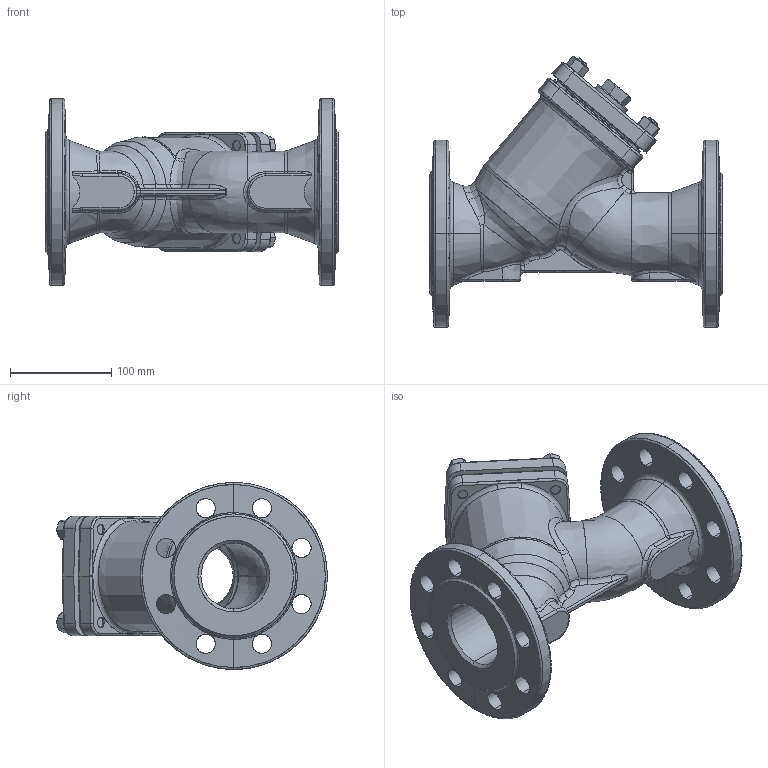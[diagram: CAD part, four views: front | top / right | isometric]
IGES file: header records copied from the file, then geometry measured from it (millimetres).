
Start section: SolidWorks IGES file using analytic representation for surfaces
Global section: file name: E:\SOLID WORKS 98\821\821_DN65_PN25.IGS; native system: SolidWorks 2010; preprocessor: SolidWorks 2010; author: alisowsk; date: 100112.141025; units: millimetre
Bounding box: 290 x 267.71 x 185 mm (x, y, z)
Surface area: 359357.2 mm2 (no closed solid volume)
Topology: 0 solids, 0 shells, 643 faces, 9816 edges, 9814 vertices
Faces by surface type: bspline 323, revolution 320
